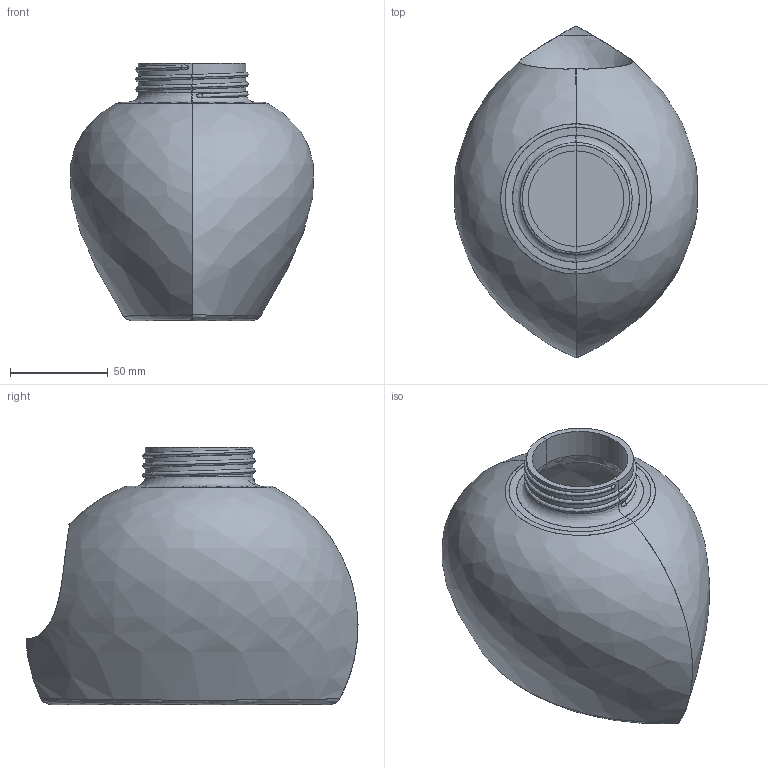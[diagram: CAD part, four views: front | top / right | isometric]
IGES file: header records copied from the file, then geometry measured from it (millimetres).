
Start section: START RECORD GO HERE.
Global section: file name: c1-Ginel_Valero_Eric-solucion-posible.igs; native system: IBM CATIA IGES - CATIA Version 5 Release 19 ; preprocessor: CATIA Version 5 Release 19 ; author: andres.garcia; organization: IQS; date: 20200131.143926; units: millimetre
Bounding box: 124.35 x 170.21 x 132 mm (x, y, z)
Surface area: 122208 mm2 (no closed solid volume)
Topology: 0 solids, 0 shells, 54 faces, 252 edges, 248 vertices
Faces by surface type: bspline 32, revolution 16, plane 6
